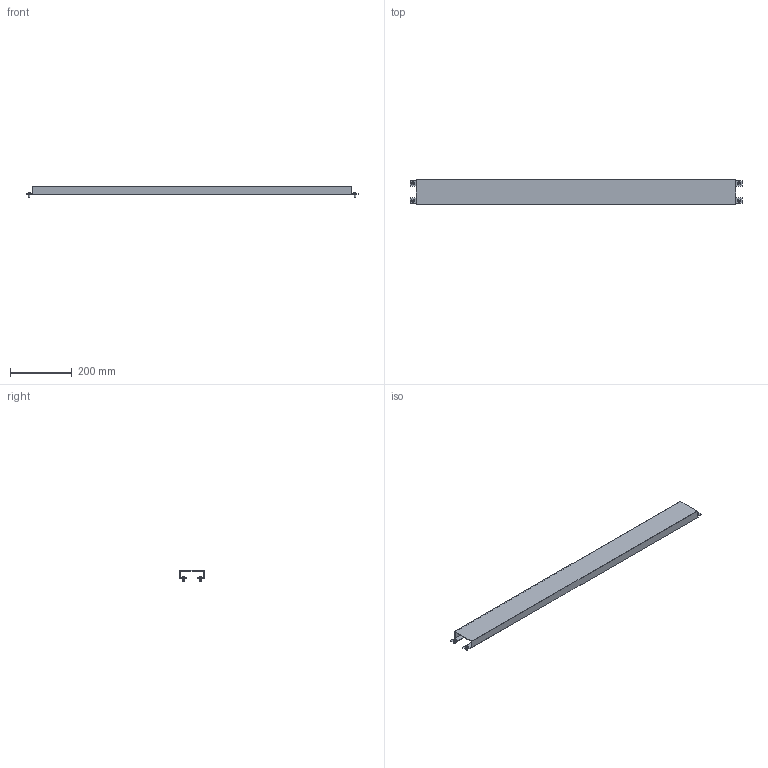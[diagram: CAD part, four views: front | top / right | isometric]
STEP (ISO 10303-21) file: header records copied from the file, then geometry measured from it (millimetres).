
FILE_DESCRIPTION(('Open CASCADE Model'),'2;1');
FILE_NAME('Open CASCADE Shape Model','2025-02-27T09:51:07',('Author'),( 'Open CASCADE'),'Open CASCADE STEP processor 7.8','Open CASCADE 7.8' ,'Unknown');
FILE_SCHEMA(('AUTOMOTIVE_DESIGN { 1 0 10303 214 1 1 1 1 }'));
Length unit declared in the file: millimetre
Products named in the file (3): Compound1; Solid1; Solid2
Assembly tree (5 placements, depth 2):
  Compound1
    Solid1
    Solid2  x4
Bounding box: 1075 x 78 x 36 mm (x, y, z)
Volume: 339067.1 mm3; surface area: 344356.2 mm2
Topology: 5 solids, 5 shells, 138 faces, 320 edges, 188 vertices
Faces by surface type: plane 66, cylinder 24, cone 16, torus 16, bspline 8, sphere 8
Entity records: 2246 total; most frequent: CARTESIAN_POINT 559, DIRECTION 342, ORIENTED_EDGE 336, EDGE_CURVE 168, AXIS2_PLACEMENT_3D 114, LINE 114, VECTOR 114, VERTEX_POINT 107
